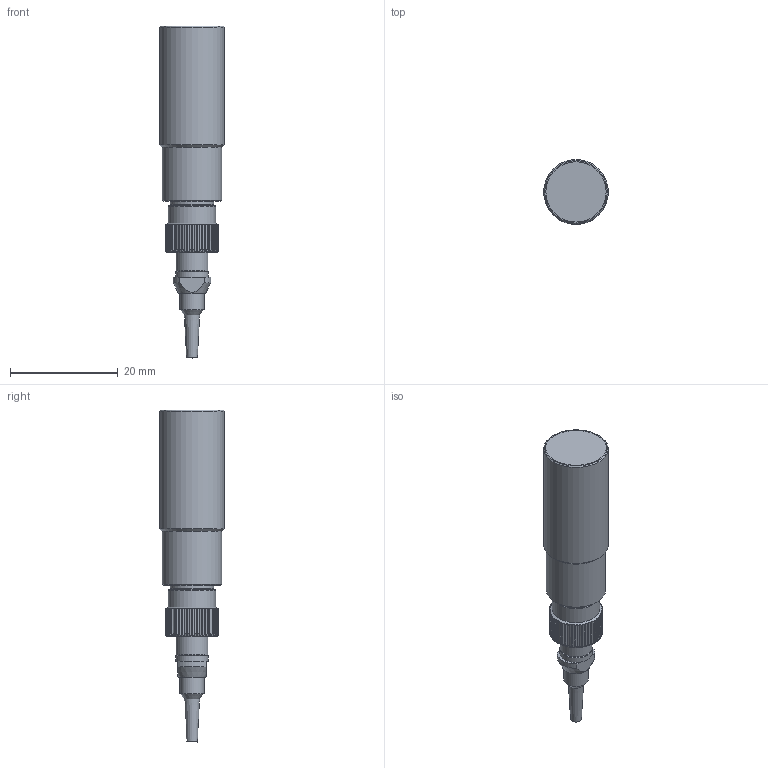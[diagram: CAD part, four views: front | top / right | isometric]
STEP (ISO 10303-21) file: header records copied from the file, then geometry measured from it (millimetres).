
FILE_DESCRIPTION(/* description */ (''),/* implementation_level */ '2;1');
FILE_NAME(/* name */ 'K:\ME\CAD Daten\IFS2404\IFS2404-2\IFS2402-2.stp',/* time_stamp */ '2018-08-29T08:30:09+02:00',/* author */ ('sven'),/* organization */ (''),/* preprocessor_version */ 'ST-DEVELOPER v16.13',/* originating_system */ 'Autodesk Inventor 2018',/* authorisation */ '');
FILE_SCHEMA (('AUTOMOTIVE_DESIGN { 1 0 10303 214 3 1 1 }'));
Length unit declared in the file: millimetre
Products named in the file (1): IFS2402-2_Shrinkwrap_1
Bounding box: 12 x 12 x 61.65 mm (x, y, z)
Volume: 5746.6 mm3; surface area: 3602.5 mm2
Topology: 7 solids, 7 shells, 172 faces, 446 edges, 292 vertices
Faces by surface type: cylinder 122, plane 33, cone 16, torus 1
Full cylindrical faces by diameter (mm): 2.6 x1, 3 x1, 4.3 x1, 4.5 x1, 4.9 x2, 5.44 x1, 5.9 x2, 6 x1, 6.1 x1, 6.9 x1, 7.447 x1, 8 x2, 8.8 x1, 11 x1, 11.2 x1, 12 x1
Entity records: 7239 total; most frequent: CARTESIAN_POINT 3092, DIRECTION 796, ORIENTED_EDGE 794, EDGE_CURVE 397, AXIS2_PLACEMENT_3D 334, VERTEX_POINT 278, EDGE_LOOP 211, STYLED_ITEM 179
